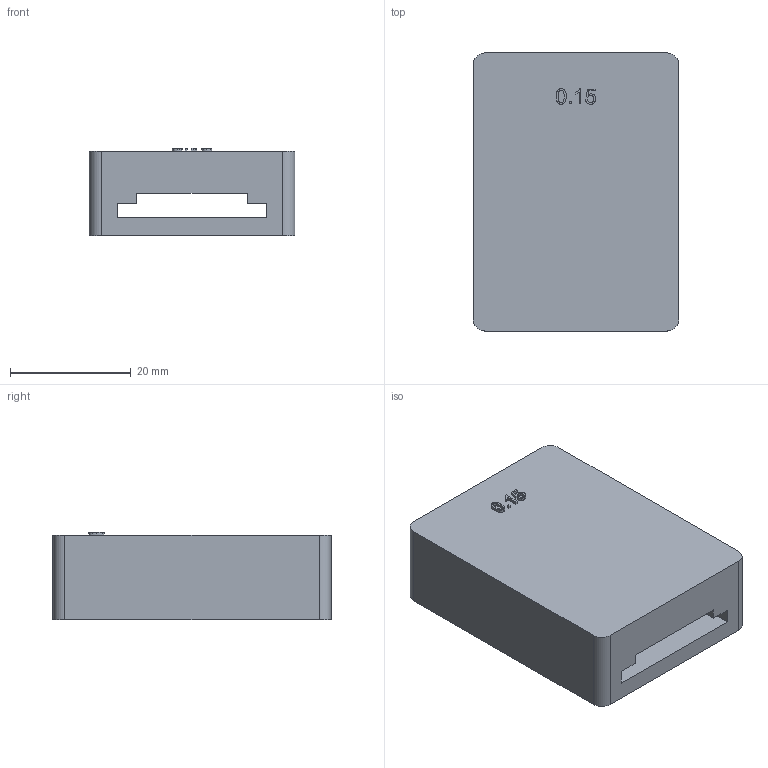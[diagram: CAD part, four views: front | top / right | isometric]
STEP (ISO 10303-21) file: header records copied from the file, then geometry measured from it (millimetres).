
FILE_DESCRIPTION(('Open CASCADE Model'),'2;1');
FILE_NAME('Open CASCADE Shape Model','1970-01-01T00:00:00',('Author'),( 'Open CASCADE'),'Open CASCADE STEP processor 7.8','Open CASCADE 7.8' ,'Unknown');
FILE_SCHEMA(('AUTOMOTIVE_DESIGN { 1 0 10303 214 1 1 1 1 }'));
Length unit declared in the file: millimetre
Products named in the file (2): Open CASCADE STEP translator 7.8 2; S15R sliding receiver
Assembly tree (1 placements, depth 2):
  Open CASCADE STEP translator 7.8 2
    S15R sliding receiver
Bounding box: 34 x 46 x 14.48 mm (x, y, z)
Volume: 17499.6 mm3; surface area: 7801.2 mm2
Topology: 1 solids, 1 shells, 82 faces, 231 edges, 154 vertices
Faces by surface type: extrusion 39, plane 37, cylinder 6
Full cylindrical faces by diameter (mm): 6.8 x2
Entity records: 6373 total; most frequent: CARTESIAN_POINT 2195, DIRECTION 563, ORIENTED_EDGE 462, PCURVE 462, DEFINITIONAL_REPRESENTATION 462, VECTOR 429, LINE 390, B_SPLINE_CURVE_WITH_KNOTS 310
